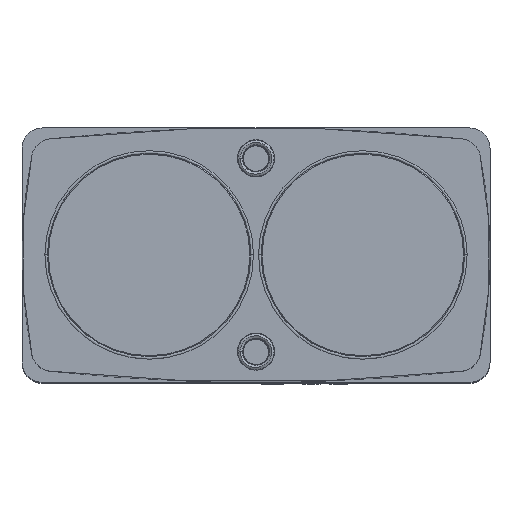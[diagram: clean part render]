
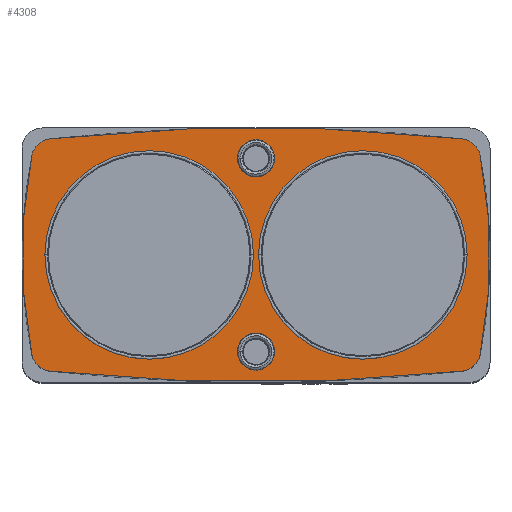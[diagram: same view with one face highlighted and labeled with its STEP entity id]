
A CAD part, top view. The second image highlights one B-rep face of the part: STEP entity #4308.
In plain terms, the highlighted planar face has unit normal (0, 0, 1).
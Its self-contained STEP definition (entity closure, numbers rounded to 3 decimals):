
#429=CARTESIAN_POINT('',(20.065,-9.426,16.5));
#430=DIRECTION('',(0.,0.,1.));
#431=DIRECTION('',(0.107,-0.994,0.));
#432=AXIS2_PLACEMENT_3D('',#429,#430,#431);
#434=CARTESIAN_POINT('',(0.,177.5,16.5));
#435=DIRECTION('',(0.,0.,1.));
#436=DIRECTION('',(-0.107,-0.994,0.));
#437=AXIS2_PLACEMENT_3D('',#434,#435,#436);
#439=CARTESIAN_POINT('',(-20.065,-9.426,16.5));
#440=DIRECTION('',(0.,0.,1.));
#441=DIRECTION('',(-0.981,-0.196,0.));
#442=AXIS2_PLACEMENT_3D('',#439,#440,#441);
#444=CARTESIAN_POINT('',(27.,0.,16.5));
#445=DIRECTION('',(0.,0.,1.));
#446=DIRECTION('',(-0.981,0.196,0.));
#447=AXIS2_PLACEMENT_3D('',#444,#445,#446);
#449=CARTESIAN_POINT('',(-20.065,9.426,16.5));
#450=DIRECTION('',(0.,0.,1.));
#451=DIRECTION('',(-0.107,0.994,0.));
#452=AXIS2_PLACEMENT_3D('',#449,#450,#451);
#454=CARTESIAN_POINT('',(0.,-177.5,16.5));
#455=DIRECTION('',(0.,0.,1.));
#456=DIRECTION('',(0.107,0.994,0.));
#457=AXIS2_PLACEMENT_3D('',#454,#455,#456);
#459=CARTESIAN_POINT('',(20.065,9.426,16.5));
#460=DIRECTION('',(0.,0.,1.));
#461=DIRECTION('',(0.981,0.196,0.));
#462=AXIS2_PLACEMENT_3D('',#459,#460,#461);
#464=CARTESIAN_POINT('',(-27.,0.,16.5));
#465=DIRECTION('',(0.,0.,1.));
#466=DIRECTION('',(0.981,-0.196,0.));
#467=AXIS2_PLACEMENT_3D('',#464,#465,#466);
#469=CARTESIAN_POINT('',(-10.5,0.,16.5));
#470=DIRECTION('',(0.,0.,1.));
#471=DIRECTION('',(1.,0.,0.));
#472=AXIS2_PLACEMENT_3D('',#469,#470,#471);
#474=CARTESIAN_POINT('',(-10.5,0.,16.5));
#475=DIRECTION('',(0.,0.,1.));
#476=DIRECTION('',(-1.,0.,0.));
#477=AXIS2_PLACEMENT_3D('',#474,#475,#476);
#479=CARTESIAN_POINT('',(10.5,0.,16.5));
#480=DIRECTION('',(0.,0.,1.));
#481=DIRECTION('',(1.,0.,0.));
#482=AXIS2_PLACEMENT_3D('',#479,#480,#481);
#484=CARTESIAN_POINT('',(10.5,0.,16.5));
#485=DIRECTION('',(0.,0.,1.));
#486=DIRECTION('',(-1.,0.,0.));
#487=AXIS2_PLACEMENT_3D('',#484,#485,#486);
#489=CARTESIAN_POINT('',(0.,9.5,16.5));
#490=DIRECTION('',(0.,0.,1.));
#491=DIRECTION('',(1.,0.,0.));
#492=AXIS2_PLACEMENT_3D('',#489,#490,#491);
#494=CARTESIAN_POINT('',(0.,9.5,16.5));
#495=DIRECTION('',(0.,0.,1.));
#496=DIRECTION('',(-1.,0.,0.));
#497=AXIS2_PLACEMENT_3D('',#494,#495,#496);
#499=CARTESIAN_POINT('',(0.,-9.5,16.5));
#500=DIRECTION('',(0.,0.,1.));
#501=DIRECTION('',(1.,0.,0.));
#502=AXIS2_PLACEMENT_3D('',#499,#500,#501);
#504=CARTESIAN_POINT('',(0.,-9.5,16.5));
#505=DIRECTION('',(0.,0.,1.));
#506=DIRECTION('',(-1.,0.,0.));
#507=AXIS2_PLACEMENT_3D('',#504,#505,#506);
#3416=CARTESIAN_POINT('',(20.279,-11.415,16.5));
#3418=VERTEX_POINT('',#3416);
#3420=CARTESIAN_POINT('',(22.026,-9.819,16.5));
#3421=VERTEX_POINT('',#3420);
#3424=CARTESIAN_POINT('',(22.026,9.819,16.5));
#3426=VERTEX_POINT('',#3424);
#3428=CARTESIAN_POINT('',(20.279,11.415,16.5));
#3429=VERTEX_POINT('',#3428);
#3432=CARTESIAN_POINT('',(-22.026,-9.819,16.5));
#3434=VERTEX_POINT('',#3432);
#3436=CARTESIAN_POINT('',(-20.279,-11.415,16.5));
#3437=VERTEX_POINT('',#3436);
#3440=CARTESIAN_POINT('',(-20.279,11.415,16.5));
#3442=VERTEX_POINT('',#3440);
#3444=CARTESIAN_POINT('',(-22.026,9.819,16.5));
#3445=VERTEX_POINT('',#3444);
#3894=CARTESIAN_POINT('',(-0.25,0.,16.5));
#3895=CARTESIAN_POINT('',(-20.75,0.,16.5));
#3896=VERTEX_POINT('',#3894);
#3897=VERTEX_POINT('',#3895);
#3898=CARTESIAN_POINT('',(20.75,0.,16.5));
#3899=CARTESIAN_POINT('',(0.25,0.,16.5));
#3900=VERTEX_POINT('',#3898);
#3901=VERTEX_POINT('',#3899);
#3942=CARTESIAN_POINT('',(1.825,9.5,16.5));
#3943=CARTESIAN_POINT('',(-1.825,9.5,16.5));
#3944=VERTEX_POINT('',#3942);
#3945=VERTEX_POINT('',#3943);
#3946=CARTESIAN_POINT('',(1.825,-9.5,16.5));
#3947=CARTESIAN_POINT('',(-1.825,-9.5,16.5));
#3948=VERTEX_POINT('',#3946);
#3949=VERTEX_POINT('',#3947);
#4261=CARTESIAN_POINT('',(0.,0.,16.5));
#4262=DIRECTION('',(0.,0.,1.));
#4263=DIRECTION('',(1.,0.,0.));
#4264=AXIS2_PLACEMENT_3D('',#4261,#4262,#4263);
#4265=PLANE('',#4264);
#4267=ORIENTED_EDGE('',*,*,#4266,.F.);
#4269=ORIENTED_EDGE('',*,*,#4268,.F.);
#4271=ORIENTED_EDGE('',*,*,#4270,.F.);
#4273=ORIENTED_EDGE('',*,*,#4272,.F.);
#4275=ORIENTED_EDGE('',*,*,#4274,.F.);
#4277=ORIENTED_EDGE('',*,*,#4276,.F.);
#4279=ORIENTED_EDGE('',*,*,#4278,.F.);
#4281=ORIENTED_EDGE('',*,*,#4280,.F.);
#4282=EDGE_LOOP('',(#4267,#4269,#4271,#4273,#4275,#4277,#4279,#4281));
#4283=FACE_OUTER_BOUND('',#4282,.F.);
#4285=ORIENTED_EDGE('',*,*,#4284,.T.);
#4287=ORIENTED_EDGE('',*,*,#4286,.T.);
#4288=EDGE_LOOP('',(#4285,#4287));
#4289=FACE_BOUND('',#4288,.F.);
#4291=ORIENTED_EDGE('',*,*,#4290,.T.);
#4293=ORIENTED_EDGE('',*,*,#4292,.T.);
#4294=EDGE_LOOP('',(#4291,#4293));
#4295=FACE_BOUND('',#4294,.F.);
#4297=ORIENTED_EDGE('',*,*,#4296,.T.);
#4299=ORIENTED_EDGE('',*,*,#4298,.T.);
#4300=EDGE_LOOP('',(#4297,#4299));
#4301=FACE_BOUND('',#4300,.F.);
#4303=ORIENTED_EDGE('',*,*,#4302,.T.);
#4305=ORIENTED_EDGE('',*,*,#4304,.T.);
#4306=EDGE_LOOP('',(#4303,#4305));
#4307=FACE_BOUND('',#4306,.F.);
#433=CIRCLE('',#432,2.);
#438=CIRCLE('',#437,190.);
#443=CIRCLE('',#442,2.);
#448=CIRCLE('',#447,50.);
#453=CIRCLE('',#452,2.);
#458=CIRCLE('',#457,190.);
#463=CIRCLE('',#462,2.);
#468=CIRCLE('',#467,50.);
#473=CIRCLE('',#472,10.25);
#478=CIRCLE('',#477,10.25);
#483=CIRCLE('',#482,10.25);
#488=CIRCLE('',#487,10.25);
#493=CIRCLE('',#492,1.825);
#498=CIRCLE('',#497,1.825);
#503=CIRCLE('',#502,1.825);
#508=CIRCLE('',#507,1.825);
#4266=EDGE_CURVE('',#3418,#3421,#433,.T.);
#4268=EDGE_CURVE('',#3437,#3418,#438,.T.);
#4270=EDGE_CURVE('',#3434,#3437,#443,.T.);
#4272=EDGE_CURVE('',#3445,#3434,#448,.T.);
#4274=EDGE_CURVE('',#3442,#3445,#453,.T.);
#4276=EDGE_CURVE('',#3429,#3442,#458,.T.);
#4278=EDGE_CURVE('',#3426,#3429,#463,.T.);
#4280=EDGE_CURVE('',#3421,#3426,#468,.T.);
#4284=EDGE_CURVE('',#3896,#3897,#473,.T.);
#4286=EDGE_CURVE('',#3897,#3896,#478,.T.);
#4290=EDGE_CURVE('',#3900,#3901,#483,.T.);
#4292=EDGE_CURVE('',#3901,#3900,#488,.T.);
#4296=EDGE_CURVE('',#3944,#3945,#493,.T.);
#4298=EDGE_CURVE('',#3945,#3944,#498,.T.);
#4302=EDGE_CURVE('',#3948,#3949,#503,.T.);
#4304=EDGE_CURVE('',#3949,#3948,#508,.T.);
#4308=ADVANCED_FACE('',(#4283,#4289,#4295,#4301,#4307),#4265,.T.);
